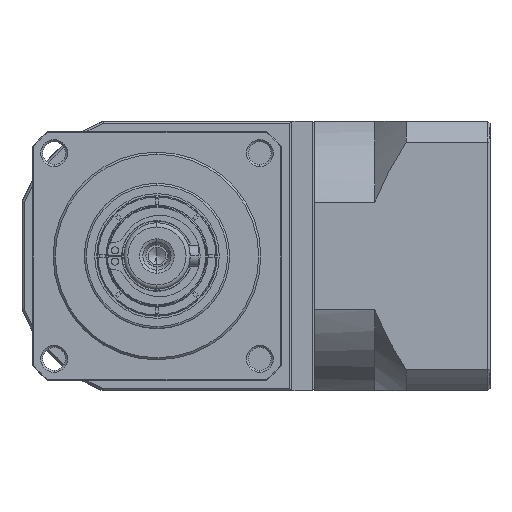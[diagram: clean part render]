
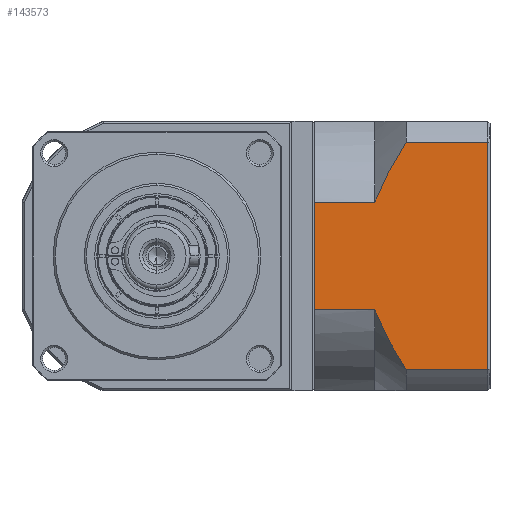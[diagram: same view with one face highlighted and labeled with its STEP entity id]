
A CAD part, left-side view. The second image highlights one B-rep face of the part: STEP entity #143573.
In plain terms, the highlighted planar face has unit normal (-1, 0, 0).
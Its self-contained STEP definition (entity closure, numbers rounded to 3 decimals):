
#106 = CARTESIAN_POINT ( 'NONE',  ( -16.287, -82.123, -96.156 ) ) ;
#697 = CARTESIAN_POINT ( 'NONE',  ( -16.287, -54.923, -110.552 ) ) ;
#1963 = CARTESIAN_POINT ( 'NONE',  ( -16.287, -40.423, -110.552 ) ) ;
#3480 = CARTESIAN_POINT ( 'NONE',  ( -16.287, -61.689, -97.294 ) ) ;
#5522 = EDGE_CURVE ( 'NONE', #157197, #103162, #156482, .T. ) ;
#8460 = VECTOR ( 'NONE', #45622, 1000. ) ;
#10009 = VECTOR ( 'NONE', #10530, 1000. ) ;
#10530 = DIRECTION ( 'NONE',  ( 0., 1., 0. ) ) ;
#13740 = VERTEX_POINT ( 'NONE', #148661 ) ;
#13974 = CARTESIAN_POINT ( 'NONE',  ( -16.287, -54.923, -136.533 ) ) ;
#23076 = ORIENTED_EDGE ( 'NONE', *, *, #5522, .T. ) ;
#24643 = ORIENTED_EDGE ( 'NONE', *, *, #122716, .F. ) ;
#27184 = B_SPLINE_CURVE_WITH_KNOTS ( 'NONE', 3,
 ( #28403, #3480, #151803, #115039, #40866, #127499, #53347, #139913 ),
 .UNSPECIFIED., .F., .F.,
 ( 4, 2, 2, 4 ),
 ( 0.058, 0.062, 0.066, 0.074 ),
 .UNSPECIFIED. ) ;
#27438 = VERTEX_POINT ( 'NONE', #106 ) ;
#28403 = CARTESIAN_POINT ( 'NONE',  ( -16.287, -62.423, -96.156 ) ) ;
#30062 = CARTESIAN_POINT ( 'NONE',  ( -16.287, -55.161, -137.175 ) ) ;
#31424 = EDGE_CURVE ( 'NONE', #159255, #13740, #132767, .T. ) ;
#31655 = EDGE_CURVE ( 'NONE', #135962, #27438, #65702, .T. ) ;
#32719 = VECTOR ( 'NONE', #135555, 1000. ) ;
#33778 = CARTESIAN_POINT ( 'NONE',  ( -16.287, -62.423, -96.156 ) ) ;
#38979 = EDGE_CURVE ( 'NONE', #159065, #13740, #107301, .T. ) ;
#40095 = ORIENTED_EDGE ( 'NONE', *, *, #67029, .T. ) ;
#40866 = CARTESIAN_POINT ( 'NONE',  ( -16.287, -58.919, -101.966 ) ) ;
#42520 = CARTESIAN_POINT ( 'NONE',  ( -16.287, -55.939, -139.075 ) ) ;
#45622 = DIRECTION ( 'NONE',  ( 0., 1., 0. ) ) ;
#53347 = CARTESIAN_POINT ( 'NONE',  ( -16.287, -55.865, -108.014 ) ) ;
#53371 = ORIENTED_EDGE ( 'NONE', *, *, #38979, .F. ) ;
#55010 = CARTESIAN_POINT ( 'NONE',  ( -16.287, -57.063, -141.553 ) ) ;
#57723 = VECTOR ( 'NONE', #87952, 1000. ) ;
#63886 = CARTESIAN_POINT ( 'NONE',  ( -16.287, -82.623, -156.042 ) ) ;
#65702 = LINE ( 'NONE', #123103, #32719 ) ;
#65861 = EDGE_CURVE ( 'NONE', #135962, #141865, #27184, .T. ) ;
#67029 = EDGE_CURVE ( 'NONE', #159065, #27438, #89151, .T. ) ;
#67473 = CARTESIAN_POINT ( 'NONE',  ( -16.287, -59.573, -146.346 ) ) ;
#75434 = CARTESIAN_POINT ( 'NONE',  ( -16.287, -54.923, -110.552 ) ) ;
#75519 = CARTESIAN_POINT ( 'NONE',  ( -16.287, -40.423, -156.042 ) ) ;
#76318 = DIRECTION ( 'NONE',  ( 0., 1., 0. ) ) ;
#79920 = CARTESIAN_POINT ( 'NONE',  ( -16.287, -62.423, -150.928 ) ) ;
#84134 = LINE ( 'NONE', #697, #149900 ) ;
#87344 = DIRECTION ( 'NONE',  ( 0., -1., 0. ) ) ;
#87952 = DIRECTION ( 'NONE',  ( 0., 0., -1. ) ) ;
#89151 = LINE ( 'NONE', #127267, #151071 ) ;
#91795 = CARTESIAN_POINT ( 'NONE',  ( -16.287, -54.923, -136.533 ) ) ;
#95734 = ORIENTED_EDGE ( 'NONE', *, *, #31424, .T. ) ;
#103162 = VERTEX_POINT ( 'NONE', #116098 ) ;
#107301 = LINE ( 'NONE', #119781, #8460 ) ;
#108868 = LINE ( 'NONE', #159447, #10009 ) ;
#111328 = ORIENTED_EDGE ( 'NONE', *, *, #65861, .T. ) ;
#114804 = DIRECTION ( 'NONE',  ( 0., 0., 1. ) ) ;
#115039 = CARTESIAN_POINT ( 'NONE',  ( -16.287, -59.59, -100.78 ) ) ;
#116098 = CARTESIAN_POINT ( 'NONE',  ( -16.287, -40.423, -136.533 ) ) ;
#116670 = CARTESIAN_POINT ( 'NONE',  ( -16.287, -55.413, -137.814 ) ) ;
#119781 = CARTESIAN_POINT ( 'NONE',  ( -16.287, -54.923, -150.928 ) ) ;
#122716 = EDGE_CURVE ( 'NONE', #159255, #103162, #108868, .T. ) ;
#123103 = CARTESIAN_POINT ( 'NONE',  ( -16.287, -54.923, -96.156 ) ) ;
#127267 = CARTESIAN_POINT ( 'NONE',  ( -16.287, -82.123, -156.042 ) ) ;
#127499 = CARTESIAN_POINT ( 'NONE',  ( -16.287, -57.009, -105.562 ) ) ;
#129174 = CARTESIAN_POINT ( 'NONE',  ( -16.287, -56.213, -139.699 ) ) ;
#130102 = EDGE_CURVE ( 'NONE', #157197, #141865, #84134, .T. ) ;
#132767 = B_SPLINE_CURVE_WITH_KNOTS ( 'NONE', 3,
 ( #91795, #30062, #116670, #42520, #129174, #55010, #141579, #67473, #154015, #79920 ),
 .UNSPECIFIED., .F., .F.,
 ( 4, 2, 2, 2, 4 ),
 ( 0.101, 0.103, 0.105, 0.109, 0.117 ),
 .UNSPECIFIED. ) ;
#133668 = EDGE_LOOP ( 'NONE', ( #53371, #40095, #144898, #111328, #140975, #23076, #24643, #95734 ) ) ;
#135555 = DIRECTION ( 'NONE',  ( 0., -1., 0. ) ) ;
#135962 = VERTEX_POINT ( 'NONE', #33778 ) ;
#139913 = CARTESIAN_POINT ( 'NONE',  ( -16.287, -54.923, -110.552 ) ) ;
#140975 = ORIENTED_EDGE ( 'NONE', *, *, #130102, .F. ) ;
#141579 = CARTESIAN_POINT ( 'NONE',  ( -16.287, -57.668, -142.765 ) ) ;
#141865 = VERTEX_POINT ( 'NONE', #75434 ) ;
#143573 = ADVANCED_FACE ( 'NONE', ( #156277 ), #149859, .F. ) ;
#144898 = ORIENTED_EDGE ( 'NONE', *, *, #31655, .F. ) ;
#148661 = CARTESIAN_POINT ( 'NONE',  ( -16.287, -62.423, -150.928 ) ) ;
#149859 = PLANE ( 'NONE',  #152401 ) ;
#149900 = VECTOR ( 'NONE', #87344, 1000. ) ;
#150382 = DIRECTION ( 'NONE',  ( 1., 0., 0. ) ) ;
#151071 = VECTOR ( 'NONE', #114804, 1000. ) ;
#151803 = CARTESIAN_POINT ( 'NONE',  ( -16.287, -60.974, -98.445 ) ) ;
#152401 = AXIS2_PLACEMENT_3D ( 'NONE', #63886, #150382, #76318 ) ;
#154015 = CARTESIAN_POINT ( 'NONE',  ( -16.287, -60.961, -148.66 ) ) ;
#154268 = CARTESIAN_POINT ( 'NONE',  ( -16.287, -82.123, -150.928 ) ) ;
#156277 = FACE_OUTER_BOUND ( 'NONE', #133668, .T. ) ;
#156482 = LINE ( 'NONE', #75519, #57723 ) ;
#157197 = VERTEX_POINT ( 'NONE', #1963 ) ;
#159065 = VERTEX_POINT ( 'NONE', #154268 ) ;
#159255 = VERTEX_POINT ( 'NONE', #13974 ) ;
#159447 = CARTESIAN_POINT ( 'NONE',  ( -16.287, -54.923, -136.533 ) ) ;
